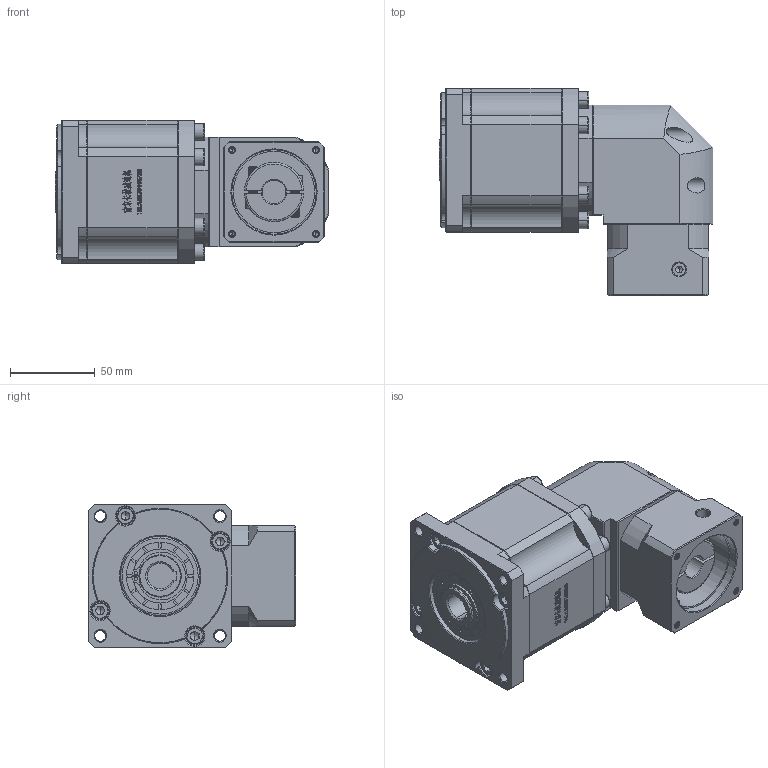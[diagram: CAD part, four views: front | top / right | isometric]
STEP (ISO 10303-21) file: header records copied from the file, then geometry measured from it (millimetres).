
FILE_DESCRIPTION (( 'STEP AP214' ), '1' );
FILE_NAME ('ZBR90-K15-L3-14-50-70-M4.step', '2022-05-07T15:26:05', ( '' ), ( 'Microsoft' ), 'SwSTEP 2.0', 'SolidWorks 2016', '' );
FILE_SCHEMA (( 'AUTOMOTIVE_DESIGN' ));
Length unit declared in the file: millimetre
Products named in the file (1): ZBR90-K15-L3-14-50-70-M4
Bounding box: 162 x 122.7 x 85 mm (x, y, z)
Volume: 903599.3 mm3; surface area: 103608.3 mm2
Topology: 5 solids, 5 shells, 2982 faces, 7989 edges, 5150 vertices
Faces by surface type: plane 1591, bspline 610, cylinder 410, cone 363, torus 8
Entity records: 155066 total; most frequent: CARTESIAN_POINT 52214, ORIENTED_EDGE 15890, DIRECTION 12242, EDGE_CURVE 7945, LINE 5286, VECTOR 5286, VERTEX_POINT 5150, AXIS2_PLACEMENT_3D 3478
